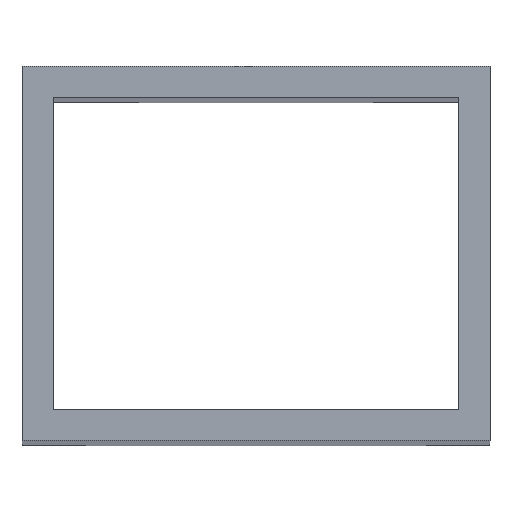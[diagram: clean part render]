
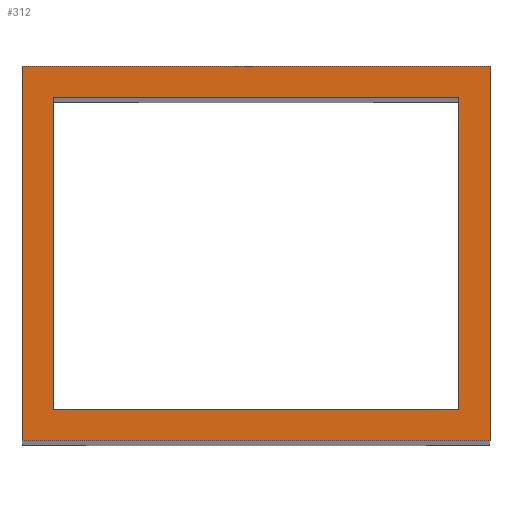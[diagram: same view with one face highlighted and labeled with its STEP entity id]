
A CAD part, top view. The second image highlights one B-rep face of the part: STEP entity #312.
In plain terms, the highlighted planar face has unit normal (0, 0, 1).
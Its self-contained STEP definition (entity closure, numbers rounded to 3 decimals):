
#24=FACE_BOUND('',#63,.T.);
#44=FACE_OUTER_BOUND('',#62,.T.);
#62=EDGE_LOOP('',(#260,#261,#262,#263));
#63=EDGE_LOOP('',(#264,#265,#266,#267));
#71=LINE('',#456,#105);
#74=LINE('',#462,#108);
#78=LINE('',#474,#112);
#82=LINE('',#482,#116);
#91=LINE('',#507,#125);
#96=LINE('',#520,#130);
#97=LINE('',#523,#131);
#98=LINE('',#524,#132);
#105=VECTOR('',#370,10.);
#108=VECTOR('',#375,10.);
#112=VECTOR('',#385,10.);
#116=VECTOR('',#393,10.);
#125=VECTOR('',#416,10.);
#130=VECTOR('',#429,10.);
#131=VECTOR('',#432,10.);
#132=VECTOR('',#433,10.);
#139=VERTEX_POINT('',#453);
#140=VERTEX_POINT('',#455);
#142=VERTEX_POINT('',#461);
#147=VERTEX_POINT('',#473);
#157=VERTEX_POINT('',#504);
#158=VERTEX_POINT('',#506);
#162=VERTEX_POINT('',#518);
#163=VERTEX_POINT('',#522);
#167=EDGE_CURVE('',#140,#139,#71,.T.);
#170=EDGE_CURVE('',#142,#140,#74,.T.);
#176=EDGE_CURVE('',#147,#142,#78,.T.);
#181=EDGE_CURVE('',#139,#147,#82,.T.);
#193=EDGE_CURVE('',#157,#158,#91,.T.);
#200=EDGE_CURVE('',#157,#162,#96,.T.);
#201=EDGE_CURVE('',#163,#162,#97,.T.);
#202=EDGE_CURVE('',#158,#163,#98,.T.);
#260=ORIENTED_EDGE('',*,*,#200,.T.);
#261=ORIENTED_EDGE('',*,*,#201,.F.);
#262=ORIENTED_EDGE('',*,*,#202,.F.);
#263=ORIENTED_EDGE('',*,*,#193,.F.);
#264=ORIENTED_EDGE('',*,*,#176,.T.);
#265=ORIENTED_EDGE('',*,*,#170,.T.);
#266=ORIENTED_EDGE('',*,*,#167,.T.);
#267=ORIENTED_EDGE('',*,*,#181,.T.);
#298=PLANE('',#358);
#312=ADVANCED_FACE('',(#44,#24),#298,.T.);
#358=AXIS2_PLACEMENT_3D('',#521,#430,#431);
#370=DIRECTION('',(0.,-1.,0.));
#375=DIRECTION('',(1.,0.,0.));
#385=DIRECTION('',(0.,1.,0.));
#393=DIRECTION('',(-1.,0.,0.));
#416=DIRECTION('',(-1.,0.,0.));
#429=DIRECTION('',(0.,1.,0.));
#430=DIRECTION('center_axis',(0.,0.,1.));
#431=DIRECTION('ref_axis',(1.,0.,0.));
#432=DIRECTION('',(1.,0.,0.));
#433=DIRECTION('',(0.,1.,0.));
#453=CARTESIAN_POINT('',(165.1,-127.,2500.));
#455=CARTESIAN_POINT('',(165.1,127.,2500.));
#456=CARTESIAN_POINT('',(165.1,63.5,2500.));
#461=CARTESIAN_POINT('',(-165.1,127.,2500.));
#462=CARTESIAN_POINT('',(-177.8,127.,2500.));
#473=CARTESIAN_POINT('',(-165.1,-127.,2500.));
#474=CARTESIAN_POINT('',(-165.1,-63.5,2500.));
#482=CARTESIAN_POINT('',(-12.7,-127.,2500.));
#504=CARTESIAN_POINT('',(190.5,-152.4,2500.));
#506=CARTESIAN_POINT('',(-190.5,-152.4,2500.));
#507=CARTESIAN_POINT('',(-190.5,-152.4,2500.));
#518=CARTESIAN_POINT('',(190.5,152.4,2500.));
#520=CARTESIAN_POINT('',(190.5,0.,2500.));
#521=CARTESIAN_POINT('Origin',(-190.5,0.,2500.));
#522=CARTESIAN_POINT('',(-190.5,152.4,2500.));
#523=CARTESIAN_POINT('',(-190.5,152.4,2500.));
#524=CARTESIAN_POINT('',(-190.5,0.,2500.));
